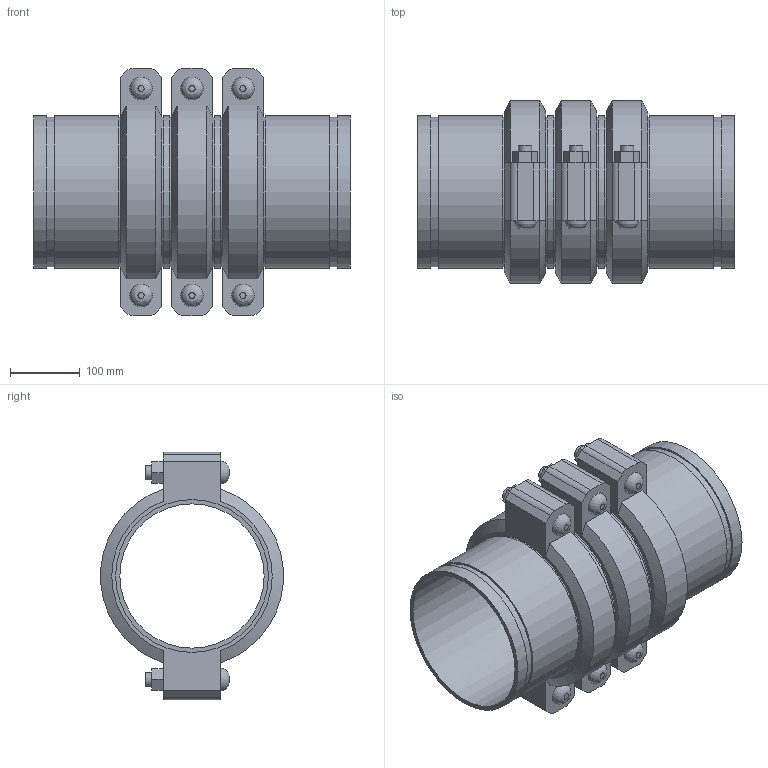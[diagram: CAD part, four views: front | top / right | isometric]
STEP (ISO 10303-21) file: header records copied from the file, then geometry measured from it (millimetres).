
FILE_DESCRIPTION(/* description */ ('VIC SS EXPANSION JOINT 3 COUPLINGS NEUTRAL STYLE 155P (OGS) (POTABLE WATER) ','CAx-IF Rec.Pracs.---Representation and Presentation of Product Manufacturing Information (PMI)---4.0---2014-10-13'),/* implementation_level */ '2;1');
FILE_NAME(/* name */ 'C:\Users\kkamble\AppData\Roaming\Autodesk\ApplicationPlugins\Victaulic.Temp\A227\Victaulic_SS_Expansion Joint_Neutral_3 Couplings_Style 155P (OGS)-Potable Water_3 Coup_Neut_8 (200).stp',/* time_stamp */ '2021-07-16T16:32:29+05:00',/* author */ ('kkamble'),/* organization */ ('Victaulic'),/* preprocessor_version */ 'ST-DEVELOPER v17.2',/* originating_system */ 'Autodesk Inventor 2019',/* authorisation */ '');
FILE_SCHEMA (('AP242_MANAGED_MODEL_BASED_3D_ENGINEERING_MIM_LF { 1 0 10303 442 1 1 4 }'));
Length unit declared in the file: inch
Products named in the file (4): 155P-08.0; Nipple-08.0; Nipple-08.0_1; 075-08.0
Assembly tree (7 placements, depth 2):
  155P-08.0
    Nipple-08.0  x2
    Nipple-08.0_1  x2
    075-08.0  x3
Bounding box: 454.15 x 261.72 x 354.84 mm (x, y, z)
Volume: 5779215.6 mm3; surface area: 1163057.8 mm2
Topology: 7 solids, 13 shells, 219 faces, 519 edges, 366 vertices
Faces by surface type: plane 132, cylinder 69, cone 12, bspline 6
Full cylindrical faces by diameter (mm): 19.05 x12, 21.209 x6, 206.985 x4, 212.725 x3, 214.401 x8, 219.075 x18
Entity records: 2769 total; most frequent: CARTESIAN_POINT 491, DIRECTION 457, ORIENTED_EDGE 386, EDGE_CURVE 193, AXIS2_PLACEMENT_3D 182, VERTEX_POINT 138, EDGE_LOOP 107, LINE 93
